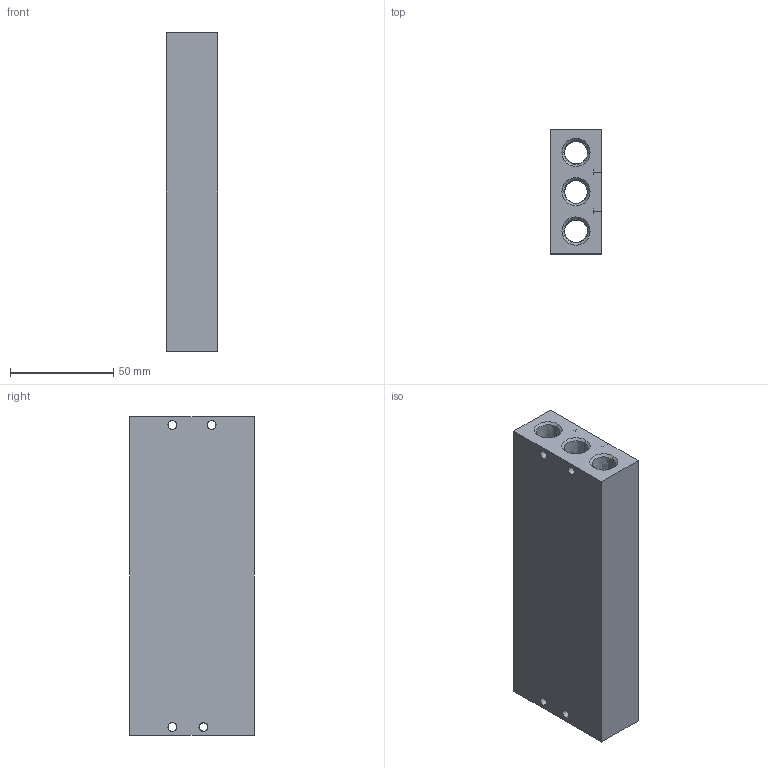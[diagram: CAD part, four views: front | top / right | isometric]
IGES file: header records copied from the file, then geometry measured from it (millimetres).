
Global section: file name: No Iges File Name specified; native system: AutoDesk Inventor R11.0; preprocessor: AutoDesk Inventor Iges Exporter R11.0; author: No Author specified; organization: No Organization specified; date: 20061201.115629; units: millimetre
Bounding box: 25 x 60 x 154 mm (x, y, z)
Volume: 169172.2 mm3; surface area: 50264.2 mm2
Topology: 1 solids, 1 shells, 248 faces, 655 edges, 391 vertices
Faces by surface type: bspline 236, revolution 6, plane 6
